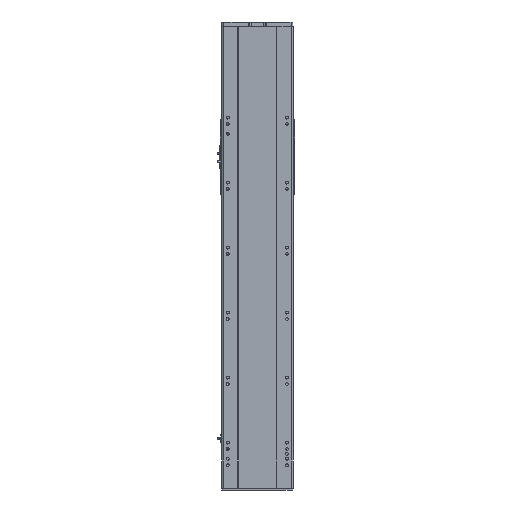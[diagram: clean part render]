
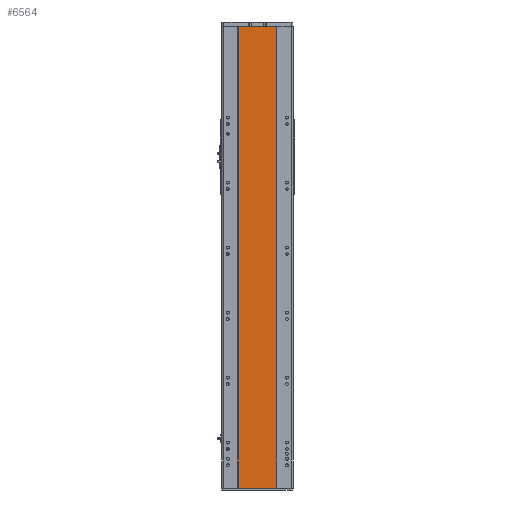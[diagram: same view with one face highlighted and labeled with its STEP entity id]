
A CAD part, front view. The second image highlights one B-rep face of the part: STEP entity #6564.
In plain terms, the highlighted planar face has unit normal (0, -1, 0).
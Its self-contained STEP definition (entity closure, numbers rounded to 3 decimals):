
#186 = VERTEX_POINT ( 'NONE', #18835 ) ;
#2955 = LINE ( 'NONE', #21235, #30364 ) ;
#3577 = DIRECTION ( 'NONE',  ( 0., 0., -1. ) ) ;
#3683 = CARTESIAN_POINT ( 'NONE',  ( 59., 1., 710.5 ) ) ;
#4154 = ORIENTED_EDGE ( 'NONE', *, *, #24059, .T. ) ;
#4703 = DIRECTION ( 'NONE',  ( 0., 0., -1. ) ) ;
#6564 = ADVANCED_FACE ( 'NONE', ( #26083 ), #30652, .F. ) ;
#7643 = LINE ( 'NONE', #29811, #29488 ) ;
#10012 = VERTEX_POINT ( 'NONE', #3683 ) ;
#10911 = LINE ( 'NONE', #38051, #33709 ) ;
#11254 = VERTEX_POINT ( 'NONE', #28223 ) ;
#13593 = ORIENTED_EDGE ( 'NONE', *, *, #24171, .F. ) ;
#14274 = EDGE_CURVE ( 'NONE', #11254, #186, #21513, .T. ) ;
#14558 = VECTOR ( 'NONE', #4703, 1000. ) ;
#15534 = ORIENTED_EDGE ( 'NONE', *, *, #14274, .T. ) ;
#15737 = CARTESIAN_POINT ( 'NONE',  ( -59., 1., 710.5 ) ) ;
#17764 = ORIENTED_EDGE ( 'NONE', *, *, #27728, .F. ) ;
#18835 = CARTESIAN_POINT ( 'NONE',  ( -59., 1., -710.5 ) ) ;
#18846 = DIRECTION ( 'NONE',  ( 0., 1., 0. ) ) ;
#20981 = DIRECTION ( 'NONE',  ( 1., 0., 0. ) ) ;
#21235 = CARTESIAN_POINT ( 'NONE',  ( 59., 1., 710.5 ) ) ;
#21513 = LINE ( 'NONE', #36794, #14558 ) ;
#24059 = EDGE_CURVE ( 'NONE', #186, #27462, #10911, .T. ) ;
#24171 = EDGE_CURVE ( 'NONE', #11254, #10012, #7643, .T. ) ;
#26083 = FACE_OUTER_BOUND ( 'NONE', #28120, .T. ) ;
#26461 = DIRECTION ( 'NONE',  ( 1., 0., 0. ) ) ;
#27462 = VERTEX_POINT ( 'NONE', #33750 ) ;
#27728 = EDGE_CURVE ( 'NONE', #10012, #27462, #2955, .T. ) ;
#28120 = EDGE_LOOP ( 'NONE', ( #4154, #17764, #13593, #15534 ) ) ;
#28223 = CARTESIAN_POINT ( 'NONE',  ( -59., 1., 710.5 ) ) ;
#29488 = VECTOR ( 'NONE', #20981, 1000. ) ;
#29811 = CARTESIAN_POINT ( 'NONE',  ( -59., 1., 710.5 ) ) ;
#30364 = VECTOR ( 'NONE', #3577, 1000. ) ;
#30652 = PLANE ( 'NONE',  #35804 ) ;
#33291 = DIRECTION ( 'NONE',  ( -1., 0., 0. ) ) ;
#33709 = VECTOR ( 'NONE', #26461, 1000. ) ;
#33750 = CARTESIAN_POINT ( 'NONE',  ( 59., 1., -710.5 ) ) ;
#35804 = AXIS2_PLACEMENT_3D ( 'NONE', #15737, #18846, #33291 ) ;
#36794 = CARTESIAN_POINT ( 'NONE',  ( -59., 1., 710.5 ) ) ;
#38051 = CARTESIAN_POINT ( 'NONE',  ( -59., 1., -710.5 ) ) ;
